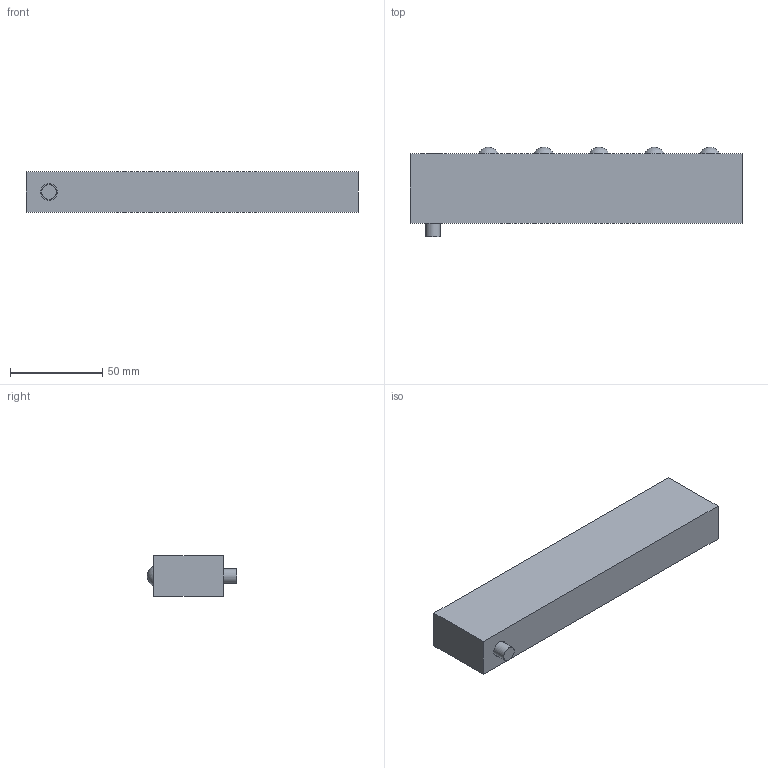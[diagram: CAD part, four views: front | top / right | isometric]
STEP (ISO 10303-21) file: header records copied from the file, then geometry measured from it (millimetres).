
FILE_DESCRIPTION(/* description */ (''),/* implementation_level */ '2;1');
FILE_NAME(/* name */ 'V:\Shrinkwrap\EMB\EMB - SHRINKWRAP\EMB22\EMB22-5_Shrinkwrap_1.stp',/* time_stamp */ '2022-08-12T10:26:24+02:00',/* author */ ('cw'),/* organization */ (''),/* preprocessor_version */ 'ST-DEVELOPER v17',/* originating_system */ 'Autodesk Inventor 2019',/* authorisation */ '');
FILE_SCHEMA (('AUTOMOTIVE_DESIGN { 1 0 10303 214 3 1 1 }'));
Length unit declared in the file: millimetre
Products named in the file (1): EMB22-5_Shrinkwrap_1
Bounding box: 180 x 48.46 x 21.8 mm (x, y, z)
Volume: 146662.5 mm3; surface area: 25587.5 mm2
Topology: 1 solids, 1 shells, 19 faces, 33 edges, 27 vertices
Faces by surface type: plane 10, sphere 5, cylinder 4
Full cylindrical faces by diameter (mm): 8 x1, 9 x1, 13 x1, 14 x1
Entity records: 553 total; most frequent: DIRECTION 86, CARTESIAN_POINT 78, ORIENTED_EDGE 62, AXIS2_PLACEMENT_3D 35, EDGE_CURVE 31, EDGE_LOOP 28, VERTEX_POINT 23, STYLED_ITEM 22
